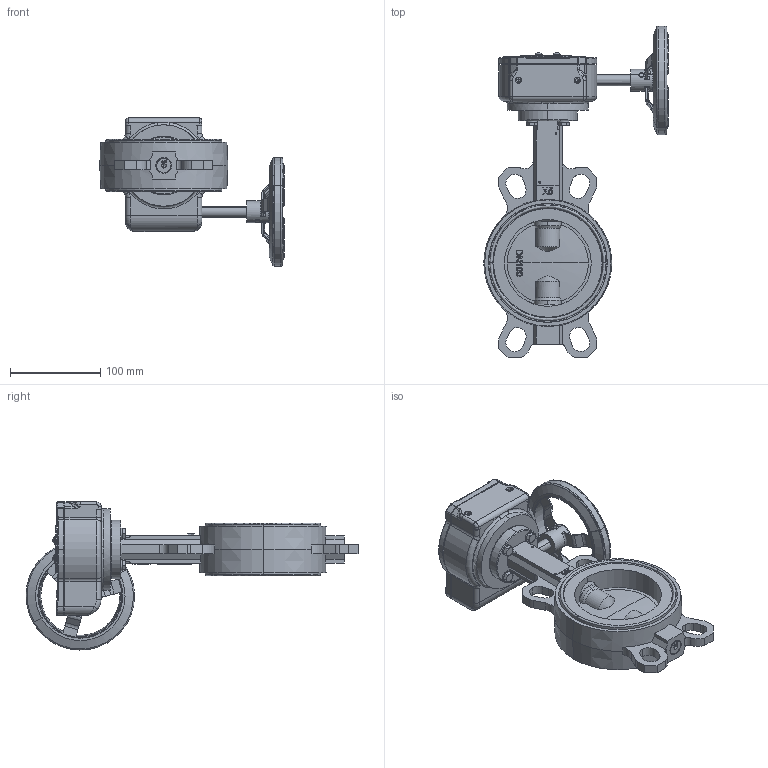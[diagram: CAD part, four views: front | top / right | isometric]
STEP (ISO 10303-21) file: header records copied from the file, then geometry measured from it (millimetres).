
FILE_DESCRIPTION (( 'STEP AP203' ), '1' );
FILE_NAME ('VPI-08 DN100.step', '2016-09-29T14:00:31', ( 'TECOFI' ), ( '' ), 'SwSTEP 2.0', 'SolidWorks 2014', '' );
FILE_SCHEMA (( 'CONFIG_CONTROL_DESIGN' ));
Products named in the file (1): VPI-08 DN100
Bounding box: 203.83 x 367 x 163.75 mm (x, y, z)
Volume: 1131337.6 mm3; surface area: 329379.7 mm2
Topology: 33 solids, 34 shells, 2621 faces, 6801 edges, 4279 vertices
Faces by surface type: plane 1052, cylinder 612, bspline 502, cone 243, torus 189, sphere 23
Entity records: 112251 total; most frequent: CARTESIAN_POINT 52341, ORIENTED_EDGE 13406, DIRECTION 11096, EDGE_CURVE 6703, VERTEX_POINT 4279, AXIS2_PLACEMENT_3D 3956, LINE 3184, VECTOR 3184
